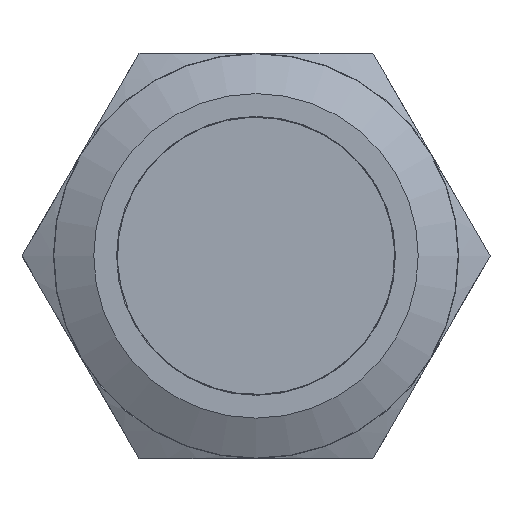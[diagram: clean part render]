
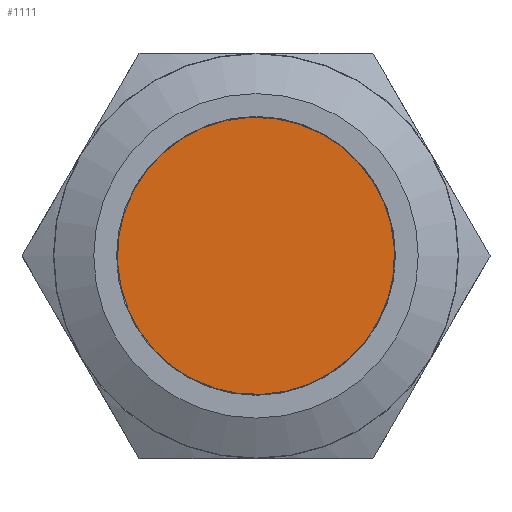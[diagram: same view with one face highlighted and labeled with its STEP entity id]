
A CAD part, top view. The second image highlights one B-rep face of the part: STEP entity #1111.
In plain terms, the highlighted planar face has unit normal (0, 0, 1).
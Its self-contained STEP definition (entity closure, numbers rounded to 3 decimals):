
#913=FACE_OUTER_BOUND('',#1798,.T.);
#1111=ADVANCED_FACE('',(#913),#1333,.F.);
#1333=PLANE('',#4862);
#1440=CIRCLE('',#4860,8.5);
#1798=EDGE_LOOP('',(#2342));
#2342=ORIENTED_EDGE('',*,*,#3671,.F.);
#3246=VERTEX_POINT('',#6793);
#3671=EDGE_CURVE('',#3246,#3246,#1440,.T.);
#4860=AXIS2_PLACEMENT_3D('',#6792,#5405,#5406);
#4862=AXIS2_PLACEMENT_3D('',#6795,#5409,#5410);
#5405=DIRECTION('',(0.,0.,-1.));
#5406=DIRECTION('',(-0.924,-0.383,0.));
#5409=DIRECTION('',(0.,0.,-1.));
#5410=DIRECTION('',(-0.924,-0.383,0.));
#6792=CARTESIAN_POINT('',(0.,0.,11.3));
#6793=CARTESIAN_POINT('',(-7.852,-3.256,11.3));
#6795=CARTESIAN_POINT('',(0.,0.,11.3));
